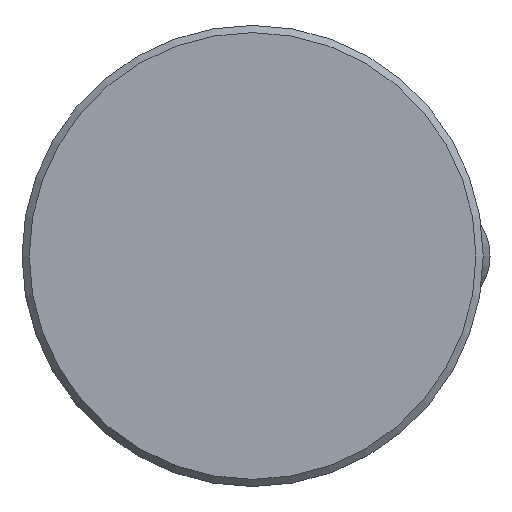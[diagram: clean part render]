
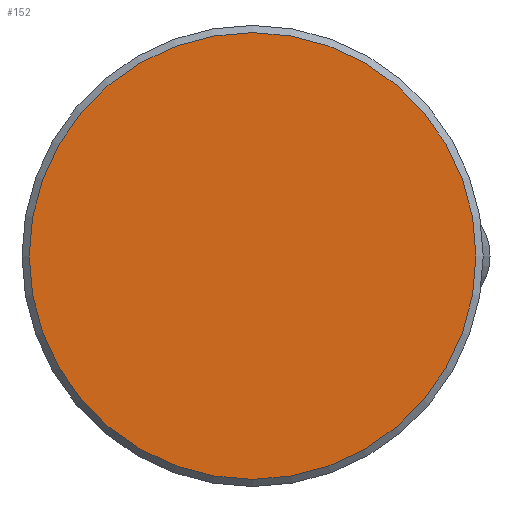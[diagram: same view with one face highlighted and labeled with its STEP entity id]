
A CAD part, front view. The second image highlights one B-rep face of the part: STEP entity #152.
In plain terms, the highlighted planar face has unit normal (0, -1, 0).
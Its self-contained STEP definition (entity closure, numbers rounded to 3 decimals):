
#152 = ADVANCED_FACE( '', ( #312 ), #313, .F. );
#312 = FACE_OUTER_BOUND( '', #508, .T. );
#313 = PLANE( '', #509 );
#508 = EDGE_LOOP( '', ( #713 ) );
#509 = AXIS2_PLACEMENT_3D( '', #714, #715, #716 );
#713 = ORIENTED_EDGE( '', *, *, #1095, .T. );
#714 = CARTESIAN_POINT( '', ( 15.5, 0., 0. ) );
#715 = DIRECTION( '', ( 0., 1., 0. ) );
#716 = DIRECTION( '', ( 0., 0., 1. ) );
#1095 = EDGE_CURVE( '', #1253, #1253, #1254, .T. );
#1253 = VERTEX_POINT( '', #1470 );
#1254 = CIRCLE( '', #1471, 15.5 );
#1470 = CARTESIAN_POINT( '', ( 0., 0., -15.5 ) );
#1471 = AXIS2_PLACEMENT_3D( '', #1955, #1956, #1957 );
#1955 = CARTESIAN_POINT( '', ( 0., 0., 0. ) );
#1956 = DIRECTION( '', ( 0., -1., 0. ) );
#1957 = DIRECTION( '', ( 0., 0., -1. ) );
